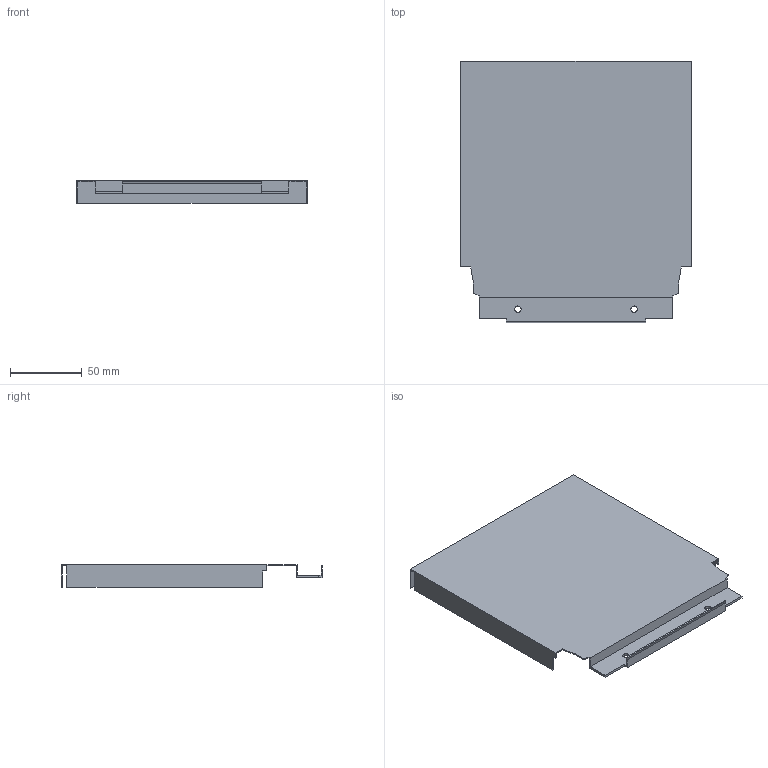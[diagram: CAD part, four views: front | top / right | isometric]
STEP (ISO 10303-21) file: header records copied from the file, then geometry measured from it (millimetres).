
FILE_DESCRIPTION (( 'STEP AP214' ), '1' );
FILE_NAME ('_DWD_XP Stahlrückwand_H182_KAB250_S19.step', '2010-07-08T12:58:02', ( 'grass' ), ( '' ), 'SwSTEP 2.0', 'SolidWorks 2010', '' );
FILE_SCHEMA (( 'AUTOMOTIVE_DESIGN' ));
Length unit declared in the file: millimetre
Products named in the file (1): _DWD_XP Stahlrückwand_H182_KAB250_S19
Bounding box: 161 x 182.49 x 16 mm (x, y, z)
Volume: 31422 mm3; surface area: 74305.3 mm2
Topology: 1 solids, 1 shells, 44 faces, 126 edges, 84 vertices
Faces by surface type: plane 40, cylinder 4
Entity records: 1460 total; most frequent: CARTESIAN_POINT 255, ORIENTED_EDGE 252, DIRECTION 224, EDGE_CURVE 126, VECTOR 118, LINE 118, VERTEX_POINT 84, AXIS2_PLACEMENT_3D 53
